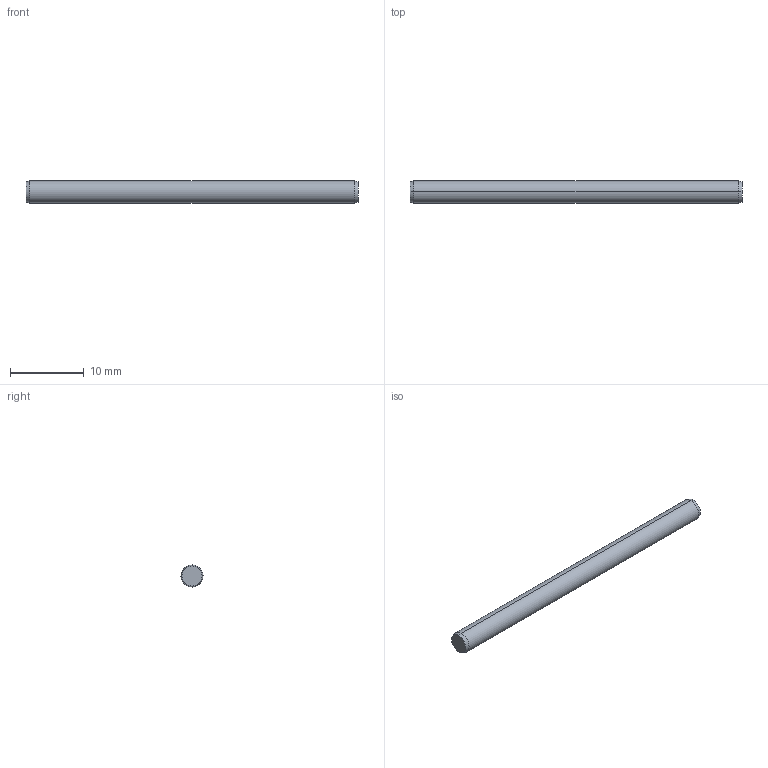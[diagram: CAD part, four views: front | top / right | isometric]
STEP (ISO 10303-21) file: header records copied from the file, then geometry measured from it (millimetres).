
FILE_DESCRIPTION (( 'STEP AP203' ), '1' );
FILE_NAME ('P1206.030-045.step', '2017-06-14T08:07:30', ( 'User' ), ( '' ), 'SwSTEP 2.0', 'SolidWorks 2009', '' );
FILE_SCHEMA (( 'CONFIG_CONTROL_DESIGN' ));
Length unit declared in the file: millimetre
Products named in the file (1): P1206.030-045
Bounding box: 45 x 3 x 3 mm (x, y, z)
Volume: 317.5 mm3; surface area: 435.7 mm2
Topology: 1 solids, 1 shells, 8 faces, 14 edges, 8 vertices
Faces by surface type: cone 4, cylinder 2, plane 2
Entity records: 271 total; most frequent: DIRECTION 40, CARTESIAN_POINT 31, ORIENTED_EDGE 28, AXIS2_PLACEMENT_3D 17, EDGE_CURVE 14, PERSON_AND_ORGANIZATION 8, FACE_OUTER_BOUND 8, CIRCLE 8
